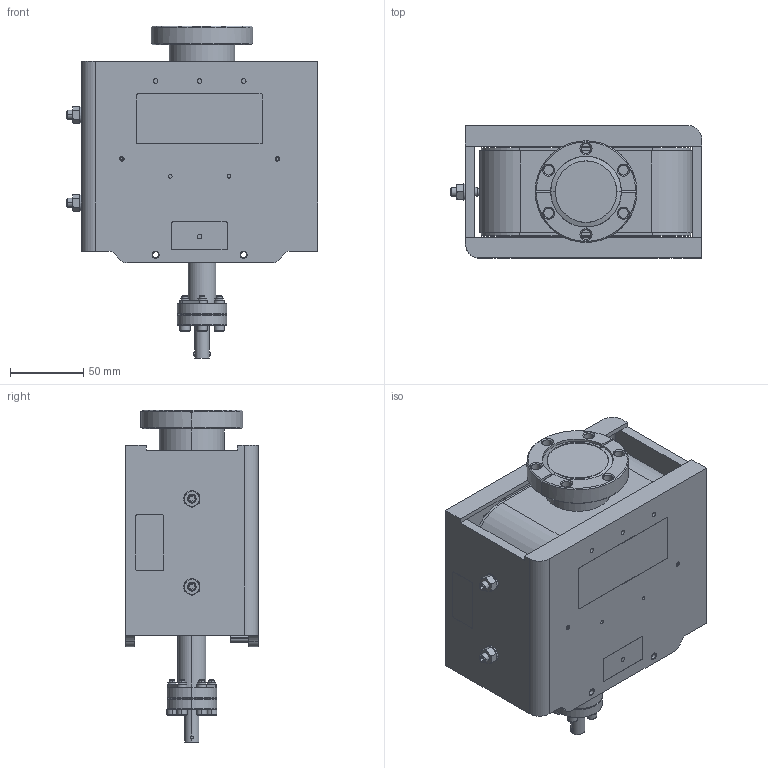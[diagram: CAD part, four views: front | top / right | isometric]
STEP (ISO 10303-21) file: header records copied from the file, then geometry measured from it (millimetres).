
FILE_DESCRIPTION((''),'2;1');
FILE_NAME('360200_25SVT_DWG_SW0002','2009-10-01T',('gollab'),('Gamma Vacuum, LLC'),'PRO/ENGINEER BY PARAMETRIC TECHNOLOGY CORPORATION, 2006080','PRO/ENGINEER BY PARAMETRIC TECHNOLOGY CORPORATION, 2006080','');
FILE_SCHEMA(('CONFIG_CONTROL_DESIGN'));
Length unit declared in the file: millimetre
Products named in the file (1): 360200_25SVT_DWG_SW0002
Bounding box: 171.35 x 90.55 x 226.27 mm (x, y, z)
Volume: 758841.4 mm3; surface area: 299506.1 mm2
Topology: 13 solids, 13 shells, 906 faces, 2212 edges, 1366 vertices
Faces by surface type: plane 353, cylinder 331, cone 162, sphere 32, torus 28
Entity records: 32536 total; most frequent: CARTESIAN_POINT 10772, DIRECTION 4670, ORIENTED_EDGE 4424, EDGE_CURVE 2212, AXIS2_PLACEMENT_3D 1760, VERTEX_POINT 1366, VECTOR 1150, LINE 1150
